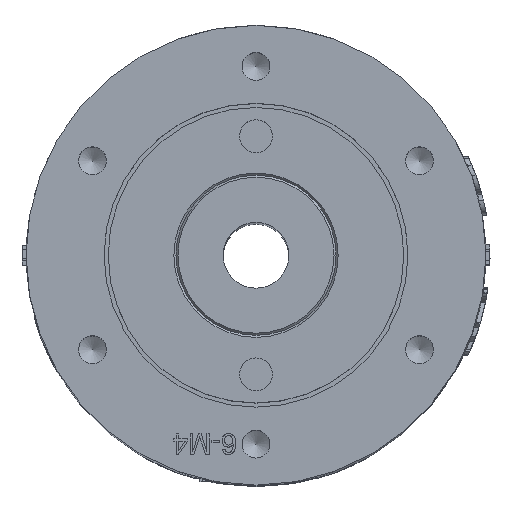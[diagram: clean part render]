
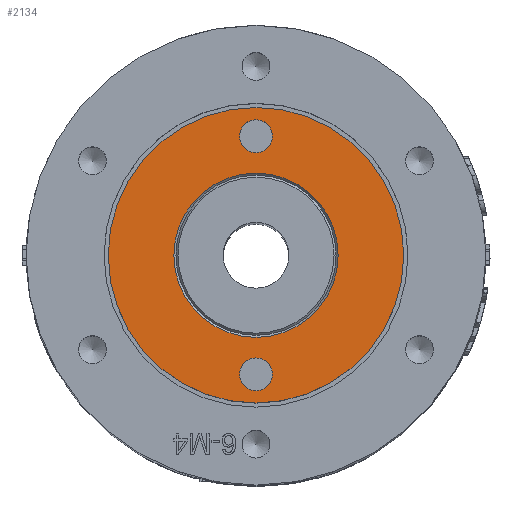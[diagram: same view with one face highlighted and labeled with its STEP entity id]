
A CAD part, top view. The second image highlights one B-rep face of the part: STEP entity #2134.
In plain terms, the highlighted planar face has unit normal (0, 0, 1).
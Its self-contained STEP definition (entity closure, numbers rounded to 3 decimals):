
#242=FACE_BOUND('',#4795,.T.);
#243=FACE_BOUND('',#4796,.T.);
#244=FACE_BOUND('',#4797,.T.);
#245=FACE_BOUND('',#4798,.T.);
#701=CIRCLE('',#21100,2.);
#703=CIRCLE('',#21104,2.);
#705=CIRCLE('',#21108,10.);
#708=CIRCLE('',#21113,18.);
#2134=ADVANCED_FACE('',(#242,#243,#244,#245),#2976,.F.);
#2976=PLANE('',#21116);
#4795=EDGE_LOOP('',(#9456));
#4796=EDGE_LOOP('',(#9457));
#4797=EDGE_LOOP('',(#9458));
#4798=EDGE_LOOP('',(#9459));
#9456=ORIENTED_EDGE('',*,*,#16815,.T.);
#9457=ORIENTED_EDGE('',*,*,#16817,.T.);
#9458=ORIENTED_EDGE('',*,*,#16819,.T.);
#9459=ORIENTED_EDGE('',*,*,#16822,.F.);
#14172=VERTEX_POINT('',#35993);
#14174=VERTEX_POINT('',#35999);
#14176=VERTEX_POINT('',#36005);
#14179=VERTEX_POINT('',#36013);
#16815=EDGE_CURVE('',#14172,#14172,#701,.T.);
#16817=EDGE_CURVE('',#14174,#14174,#703,.T.);
#16819=EDGE_CURVE('',#14176,#14176,#705,.T.);
#16822=EDGE_CURVE('',#14179,#14179,#708,.T.);
#21100=AXIS2_PLACEMENT_3D('',#35992,#23040,#23041);
#21104=AXIS2_PLACEMENT_3D('',#35998,#23048,#23049);
#21108=AXIS2_PLACEMENT_3D('',#36004,#23056,#23057);
#21113=AXIS2_PLACEMENT_3D('',#36012,#23066,#23067);
#21116=AXIS2_PLACEMENT_3D('',#36017,#23072,#23073);
#23040=DIRECTION('',(0.,0.,-1.));
#23041=DIRECTION('',(-1.,0.,0.));
#23048=DIRECTION('',(0.,0.,-1.));
#23049=DIRECTION('',(-1.,0.,0.));
#23056=DIRECTION('',(0.,0.,-1.));
#23057=DIRECTION('',(-1.,0.,0.));
#23066=DIRECTION('',(0.,0.,-1.));
#23067=DIRECTION('',(-1.,0.,0.));
#23072=DIRECTION('',(0.,0.,-1.));
#23073=DIRECTION('',(-1.,0.,0.));
#35992=CARTESIAN_POINT('',(0.,14.5,125.5));
#35993=CARTESIAN_POINT('',(-2.,14.5,125.5));
#35998=CARTESIAN_POINT('',(0.,-14.5,125.5));
#35999=CARTESIAN_POINT('',(-2.,-14.5,125.5));
#36004=CARTESIAN_POINT('',(0.,0.,125.5));
#36005=CARTESIAN_POINT('',(-10.,0.,125.5));
#36012=CARTESIAN_POINT('',(0.,0.,125.5));
#36013=CARTESIAN_POINT('',(-18.,0.,125.5));
#36017=CARTESIAN_POINT('',(0.,0.,125.5));
